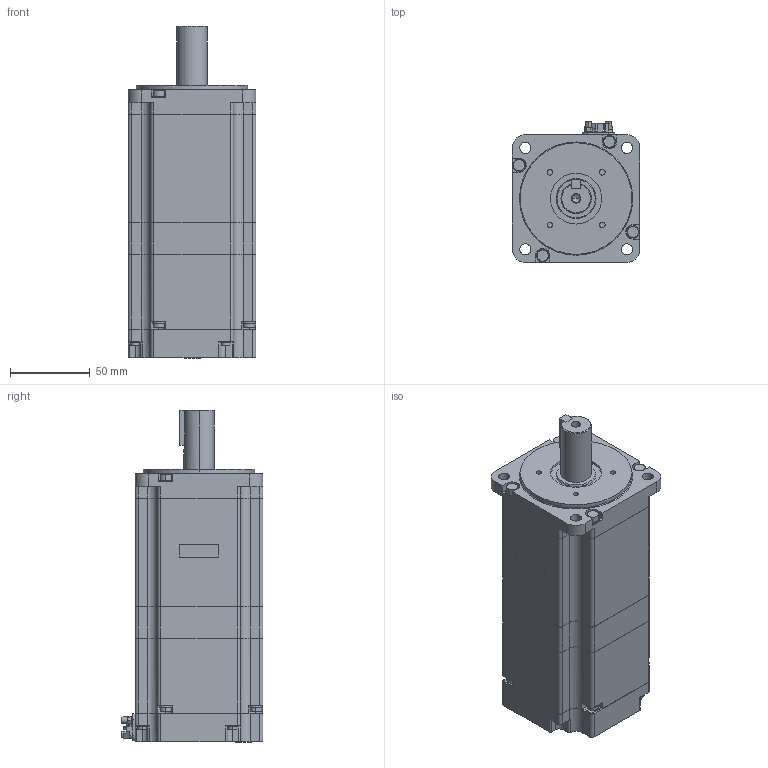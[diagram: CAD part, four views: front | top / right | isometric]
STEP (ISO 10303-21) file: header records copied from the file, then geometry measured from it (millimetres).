
FILE_DESCRIPTION( (''), '2;1');
FILE_NAME ('sgmxa_10aua6ca_.stp','2023-07-13T10:58:51',(''),(''),'spGate 15.6.6','','');
FILE_SCHEMA (('AUTOMOTIVE_DESIGN'));
Length unit declared in the file: millimetre
Products named in the file (3): Assembly; sgmxa_10aua6ca_-prt0; sgmxa_10aua6ca_-prt1
Assembly tree (2 placements, depth 2):
  Assembly
    sgmxa_10aua6ca_-prt0
    sgmxa_10aua6ca_-prt1
Bounding box: 80.1 x 88.8 x 208.1 mm (x, y, z)
Volume: 968258.3 mm3; surface area: 73628.3 mm2
Topology: 2 solids, 2 shells, 543 faces, 1438 edges, 953 vertices
Faces by surface type: plane 307, cylinder 229, bspline 7
Entity records: 28436 total; most frequent: CARTESIAN_POINT 3170, DIRECTION 2902, ORIENTED_EDGE 2872, COLOUR_RGB 1981, PRESENTATION_STYLE_ASSIGNMENT 1981, STYLED_ITEM 1981, EDGE_CURVE 1436, DRAUGHTING_PRE_DEFINED_CURVE_FONT 1436
